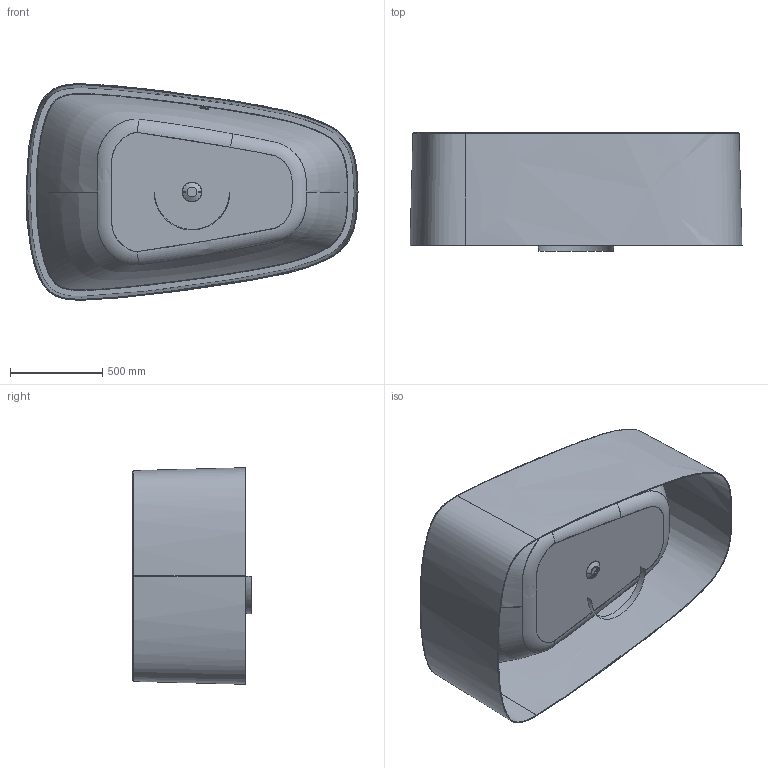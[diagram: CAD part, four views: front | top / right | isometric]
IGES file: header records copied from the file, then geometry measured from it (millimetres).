
Start section: SolidWorks IGES file using analytic representation for surfaces
Global section: file name: D:\Users\M.Szymanski\Desktop\Wanny\SINGLEBATH\03. do przegrania\WPP-kpl_SINGLEBATH_DUO_1786x1161.IGS; native system: SolidWorks 2011; preprocessor: SolidWorks 2011; author: M.Szymanski; date: 180723.073810; units: millimetre
Bounding box: 1797.95 x 641.1 x 1172.95 mm (x, y, z)
Surface area: 11694153.1 mm2 (no closed solid volume)
Topology: 0 solids, 0 shells, 60 faces, 2143 edges, 2140 vertices
Faces by surface type: bspline 44, revolution 16
